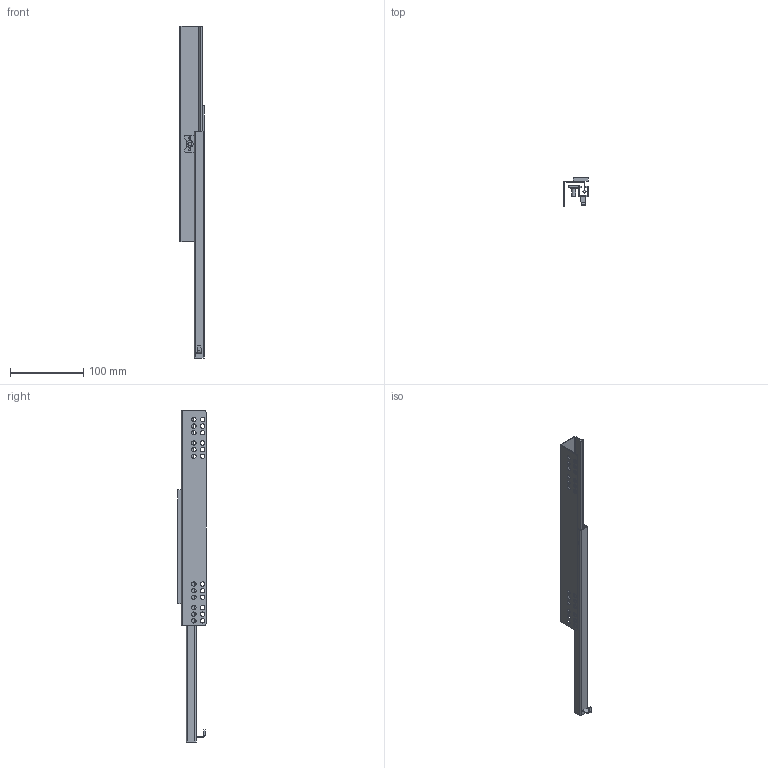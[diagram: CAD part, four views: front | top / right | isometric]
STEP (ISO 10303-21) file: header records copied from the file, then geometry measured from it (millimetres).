
FILE_DESCRIPTION(/* description */ ('Akc'),/* implementation_level */ '2;1');
FILE_NAME(/* name */ 'C:\Users\dmitruk\Documents\WORK\НАПРАВЛЯЮЩИЕ\Скрытого монтажа\Q-Type\Направляющая cкрытого насадного монтажа 3-4 Q-Type_P\Направляющая cкрытого насадного монтажа 3-4 Q-Type-450 P.stp',/* time_stamp */ '2022-04-19T18:03:33+03:00',/* author */ ('dmitruk'),/* organization */ ('AKS'),/* preprocessor_version */ 'ST-DEVELOPER v16.5',/* originating_system */ 'Autodesk Inventor 2017',/* authorisation */ '');
FILE_SCHEMA (('AUTOMOTIVE_DESIGN { 1 0 10303 214 3 1 1 }'));
Length unit declared in the file: millimetre
Products named in the file (3): 3-4 Q-Type 300-300; 3-4 Q-Type \X2\0432044B04340432043804360435043D04380435
\X0\ P.ipt-450; 3-4 Q-Type основание-
450 P
Assembly tree (2 placements, depth 2):
  3-4 Q-Type 300-300
    3-4 Q-Type \X2\0432044B04340432043804360435043D04380435
\X0\ P.ipt-450
    3-4 Q-Type основание-
450 P
Bounding box: 34 x 39 x 452 mm (x, y, z)
Volume: 59748.5 mm3; surface area: 80160.6 mm2
Topology: 2 solids, 2 shells, 108 faces, 288 edges, 188 vertices
Faces by surface type: plane 60, cylinder 46, bspline 2
Full cylindrical faces by diameter (mm): 3 x2, 5 x1, 6 x24, 9 x1
Entity records: 3569 total; most frequent: CARTESIAN_POINT 621, DIRECTION 572, ORIENTED_EDGE 518, EDGE_CURVE 259, AXIS2_PLACEMENT_3D 206, EDGE_LOOP 194, VERTEX_POINT 187, LINE 160
